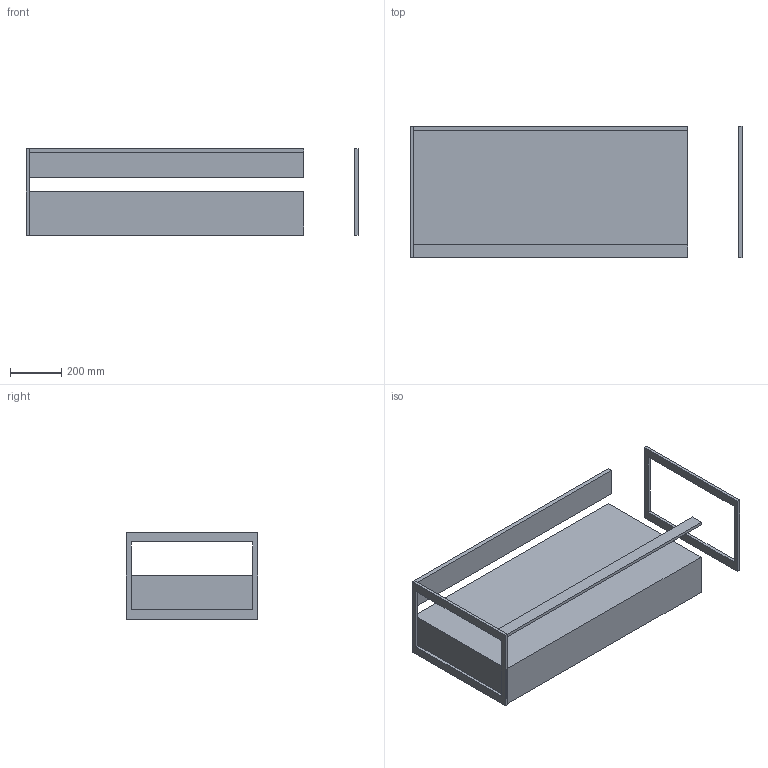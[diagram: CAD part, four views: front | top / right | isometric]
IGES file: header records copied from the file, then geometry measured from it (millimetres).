
Start section: Data from Parasolid IGES Translator 19.0.9, Copyright(c) 2006 Siemens PL M Software. All Rights Reserved.
Global section: file name: noorth-FJ-H 33,5 D 51,2 W 108_6702.igs; native system: By Siemens PLM Incorporated; preprocessor: XPlus GENERIC/IGES 19.0.9; author: Noname; organization: Noname; date: 20200507.120858; units: metre
Bounding box: 1292 x 512 x 335 mm (x, y, z)
Volume: 28295197 mm3; surface area: 3899302 mm2
Topology: 10 solids, 10 shells, 70 faces, 150 edges, 100 vertices
Faces by surface type: plane 70
